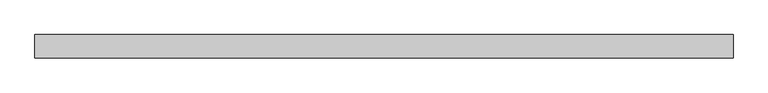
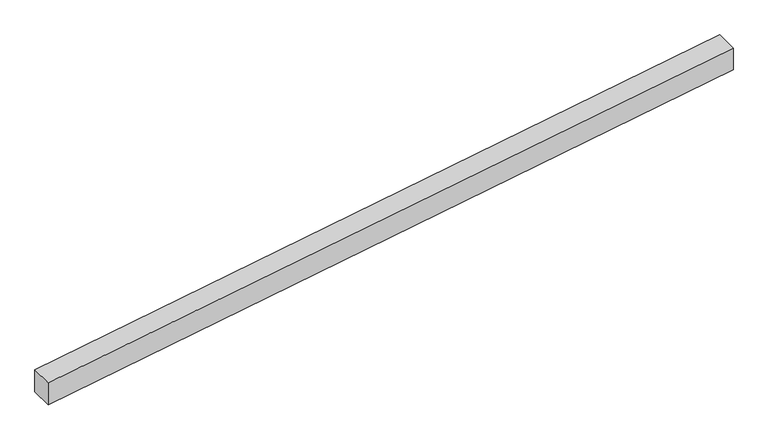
"""IFC4 building model written with IfcOpenShell, lengths in millimetres: proxy geometry, Modelos genéricos 234 : Modelos genéricos 231."""

import ifcopenshell
import ifcopenshell.guid

model = None  # the IFC model being written
_history = None  # IfcOwnerHistory: only IFC2X3 demands one
_inside = {}  # id of a spatial element -> (the spatial element, [elements in it])
_under = {}  # id of a project, library or spatial element -> (it, [spatial elements below it])
_declared = {}  # id of a project -> (the project, [libraries it declares])
_typed = {}  # id of a type object -> (the type object, [elements of that type])
_made_of = {}  # id of a material, layer set ... -> (it, [elements and type objects made of it])


def new_model(schema):
    """Start an empty IFC model of exactly this schema.

    Asked for "IFC4X3", IfcOpenShell would pick the latest addendum, in which some entities
    have other attributes; the version numbers below select the first issue.
    IFC2X3 requires an IfcOwnerHistory on every rooted entity: one is made here for all.
    """
    global model, _history
    if schema == "IFC4X3":
        model = ifcopenshell.file(schema_version=(4, 3, 0, 0))
    else:
        model = ifcopenshell.file(schema=schema)
    _inside.clear()
    _under.clear()
    _declared.clear()
    _typed.clear()
    _made_of.clear()
    _history = None
    if model.schema == "IFC2X3":
        org = make("IfcOrganization", Name="unknown")
        user = make(
            "IfcPersonAndOrganization",
            ThePerson=make("IfcPerson", FamilyName="unknown"),
            TheOrganization=org,
        )
        app = make(
            "IfcApplication",
            ApplicationDeveloper=org,
            Version="unknown",
            ApplicationFullName="unknown",
            ApplicationIdentifier="unknown",
        )
        _history = make(
            "IfcOwnerHistory",
            OwningUser=user,
            OwningApplication=app,
            ChangeAction="ADDED",
            CreationDate=0,
        )
    return model


def make(cls, **values):
    """One entity of the class cls with the attributes given. An attribute that is None is left unset."""
    return model.create_entity(
        cls, **{name: value for name, value in values.items() if value is not None}
    )


def rooted(cls, **values):
    """An entity with a GlobalId (a new one), such as an element, a storey or a relation."""
    return make(cls, GlobalId=ifcopenshell.guid.new(), OwnerHistory=_history, **values)


def si_unit(unit_type, name, prefix=None):
    """IfcSIUnit, for example si_unit("LENGTHUNIT", "METRE", prefix="MILLI")."""
    return make("IfcSIUnit", UnitType=unit_type, Prefix=prefix, Name=name)


def assignment(units):
    """IfcUnitAssignment: the units of a project."""
    return None if units is None else make("IfcUnitAssignment", Units=units)


def point(xyz):
    """IfcCartesianPoint."""
    return None if xyz is None else make("IfcCartesianPoint", Coordinates=xyz)


def direction(xyz):
    """IfcDirection."""
    return None if xyz is None else make("IfcDirection", DirectionRatios=xyz)


def frame(location, z_axis=None, x_axis=None):
    """IfcAxis2Placement3D, a coordinate frame: its origin and axes. An axis left out is left unset."""
    return make(
        "IfcAxis2Placement3D",
        Location=point(location),
        Axis=direction(z_axis),
        RefDirection=direction(x_axis),
    )


def origin():
    """The frame at (0, 0, 0) with its axes left unset."""
    return frame((0.0, 0.0, 0.0))


def place(relative_to, where):
    """IfcLocalPlacement: puts the frame where relative to a parent placement (None: the world)."""
    return make(
        "IfcLocalPlacement", PlacementRelTo=relative_to, RelativePlacement=where
    )


def context(
    kind, dimensions, precision=None, world=None, true_north=None, identifier=None
):
    """IfcGeometricRepresentationContext, for example the 3D "Model" context."""
    return make(
        "IfcGeometricRepresentationContext",
        ContextIdentifier=identifier,
        ContextType=kind,
        CoordinateSpaceDimension=dimensions,
        Precision=precision,
        WorldCoordinateSystem=world,
        TrueNorth=true_north,
    )


def project(units=None, contexts=None):
    """IfcProject with its units and contexts."""
    return rooted(
        "IfcProject",
        Name="project",
        RepresentationContexts=contexts,
        UnitsInContext=assignment(units),
    )


def spatial(cls, under=None, at=None, **own):
    """A site, building, storey or space (cls), placed at a placement, below another one or the project."""
    s = rooted(cls, ObjectPlacement=at, **own)
    if under is not None:
        _under.setdefault(under.id(), (under, []))[1].append(s)
    return s


def polyline(points):
    """IfcPolyline through the points."""
    return make("IfcPolyline", Points=[point(p) for p in points])


def outline(outer, holes=None, kind="AREA"):
    """IfcArbitraryClosedProfileDef: a profile drawn as a closed curve; with holes, ...WithVoids."""
    if holes is None:
        return make("IfcArbitraryClosedProfileDef", ProfileType=kind, OuterCurve=outer)
    return make(
        "IfcArbitraryProfileDefWithVoids",
        ProfileType=kind,
        OuterCurve=outer,
        InnerCurves=holes,
    )


def extrude(swept, where, along, depth):
    """IfcExtrudedAreaSolid: the profile swept, set in the frame where, extruded along a direction by depth."""
    return make(
        "IfcExtrudedAreaSolid",
        SweptArea=swept,
        Position=where,
        ExtrudedDirection=direction(along),
        Depth=depth,
    )


def shape(context_of_items, identifier, shape_type, items):
    """IfcShapeRepresentation: the items that make up one representation, for example the "Body"."""
    return make(
        "IfcShapeRepresentation",
        ContextOfItems=context_of_items,
        RepresentationIdentifier=identifier,
        RepresentationType=shape_type,
        Items=items,
    )


def source(mapping_origin, context_of_items, identifier, shape_type, items):
    """IfcRepresentationMap: a shape defined once, which mapped items show again and again."""
    return make(
        "IfcRepresentationMap",
        MappingOrigin=mapping_origin,
        MappedRepresentation=shape(context_of_items, identifier, shape_type, items),
    )


def transform(
    local_origin,
    x_axis=None,
    y_axis=None,
    z_axis=None,
    scale=None,
    scale2=None,
    scale3=None,
    uniform=True,
):
    """IfcCartesianTransformationOperator3D, or its non-uniform kind. x_axis, y_axis, z_axis: its Axis1, 2, 3."""
    if uniform:
        return make(
            "IfcCartesianTransformationOperator3D",
            Axis1=direction(x_axis),
            Axis2=direction(y_axis),
            LocalOrigin=point(local_origin),
            Scale=scale,
            Axis3=direction(z_axis),
        )
    return make(
        "IfcCartesianTransformationOperator3DnonUniform",
        Axis1=direction(x_axis),
        Axis2=direction(y_axis),
        LocalOrigin=point(local_origin),
        Scale=scale,
        Axis3=direction(z_axis),
        Scale2=scale2,
        Scale3=scale3,
    )


def mapped(mapping_source, mapping_target):
    """IfcMappedItem: shows the shape of a source again, moved by a transform."""
    return make(
        "IfcMappedItem", MappingSource=mapping_source, MappingTarget=mapping_target
    )


def made_of(thing, what):
    """Note that an element or type object is made of a material, layer set ...; save() writes the relation."""
    if what is not None:
        _made_of.setdefault(what.id(), (what, []))[1].append(thing)
    return thing


def element(
    cls,
    number,
    at=None,
    inside=None,
    cuts=None,
    type_object=None,
    material=None,
    context=None,
    identifier="Body",
    shape_type=None,
    held_by="IfcProductDefinitionShape",
    body=None,
    shapes=None,
    **own,
):
    """One element of the class cls, such as IfcWall. Its Tag is "e" and its number.

    at: its placement. inside: the storey or other place that contains it. cuts: it is an
    opening in that element (IfcRelVoidsElement). A single representation is given by context,
    identifier, shape_type and body (its items); several are given by shapes. held_by: the class
    of the entity that holds the representations. save() writes the other relations.
    """
    e = rooted(cls, Tag="e%d" % number, ObjectPlacement=at, **own)
    if body is not None:
        shapes = [shape(context, identifier, shape_type, body)]
    if shapes is not None:
        e.Representation = make(held_by, Representations=shapes)
    if inside is not None:
        _inside.setdefault(inside.id(), (inside, []))[1].append(e)
    if cuts is not None:
        rooted(
            "IfcRelVoidsElement", RelatingBuildingElement=cuts, RelatedOpeningElement=e
        )
    if type_object is not None:
        _typed.setdefault(type_object.id(), (type_object, []))[1].append(e)
    return made_of(e, material)


def aggregate(whole, parts):
    """IfcRelAggregates: a whole, such as a stair, and the parts it consists of."""
    return rooted("IfcRelAggregates", RelatingObject=whole, RelatedObjects=parts)


def save(model, path):
    """Write the relations noted so far, then the file.

    IfcRelAggregates (storeys below a building ...), IfcRelContainedInSpatialStructure (elements
    in a storey), IfcRelDefinesByType, IfcRelAssociatesMaterial and IfcRelDeclares: one each for
    every whole, place, type object, material and project.
    """
    for whole, parts in _under.values():
        aggregate(whole, parts)
    for where, things in _inside.values():
        rooted(
            "IfcRelContainedInSpatialStructure",
            RelatedElements=things,
            RelatingStructure=where,
        )
    for kind, things in _typed.values():
        rooted("IfcRelDefinesByType", RelatedObjects=things, RelatingType=kind)
    for what, things in _made_of.values():
        rooted("IfcRelAssociatesMaterial", RelatedObjects=things, RelatingMaterial=what)
    for by, libraries in _declared.values():
        rooted("IfcRelDeclares", RelatingContext=by, RelatedDefinitions=libraries)
    model.write(path)


def generic_models_97cfe070(model_context):
    return source(origin(), model_context, "Body", "SweptSolid", [
        extrude(outline(polyline([(3721.8097831, 12873.4472467), (3121.6652184, 9283.4472467), (3000.0, 9283.4472467), (3600.1445647, 12873.4472467), (3721.8097831, 12873.4472467)])), frame((0.0, 3793.6238165, 0.0), z_axis=(0.0, 1.0, 0.0), x_axis=(0.0, 0.0, 1.0)), (0.0, 0.0, 1.0), 120.0),
    ])


if __name__ == "__main__":
    model = new_model("IFC4")
    model_context = context("Model", 3, world=origin())
    ifc_project = project(units=[si_unit("LENGTHUNIT", "METRE", prefix="MILLI")], contexts=[model_context])
    site = spatial("IfcSite", under=ifc_project)
    building = spatial("IfcBuilding", under=site)
    placement = place(None, origin())
    generic_models_shape = generic_models_97cfe070(model_context)
    element("IfcBuildingElementProxy", 1, Name="Modelos genéricos 234 : Modelos genéricos 231", ObjectType="Modelos genéricos 234 : Modelos genéricos 231", at=placement, inside=building, context=model_context, shape_type="MappedRepresentation", body=[
        mapped(generic_models_shape, transform((0.0, 0.0, 0.0), x_axis=(1.0, 0.0, 0.0), y_axis=(0.0, 1.0, 0.0), z_axis=(0.0, 0.0, 1.0))),
    ])
    save(model, "model.ifc")
